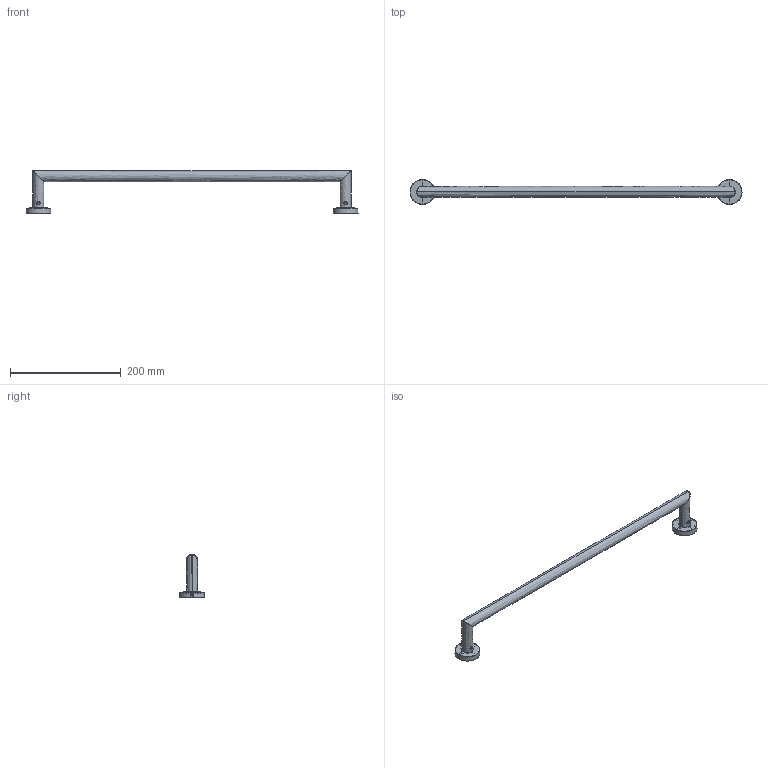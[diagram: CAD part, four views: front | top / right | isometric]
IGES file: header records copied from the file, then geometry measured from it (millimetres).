
Start section: SolidWorks IGES file using analytic representation for surfaces
Global section: file name: G:\Projects\New project\For Marketing\IGS\IGS\2015-11-27\331060002VW.IGS; native system: SolidWorks 2010; preprocessor: SolidWorks 2010; author: linda; date: 151126.143227; units: millimetre
Bounding box: 600 x 45 x 77.5 mm (x, y, z)
Surface area: 61250 mm2 (no closed solid volume)
Topology: 0 solids, 0 shells, 163 faces, 2917 edges, 2917 vertices
Faces by surface type: bspline 94, revolution 69
